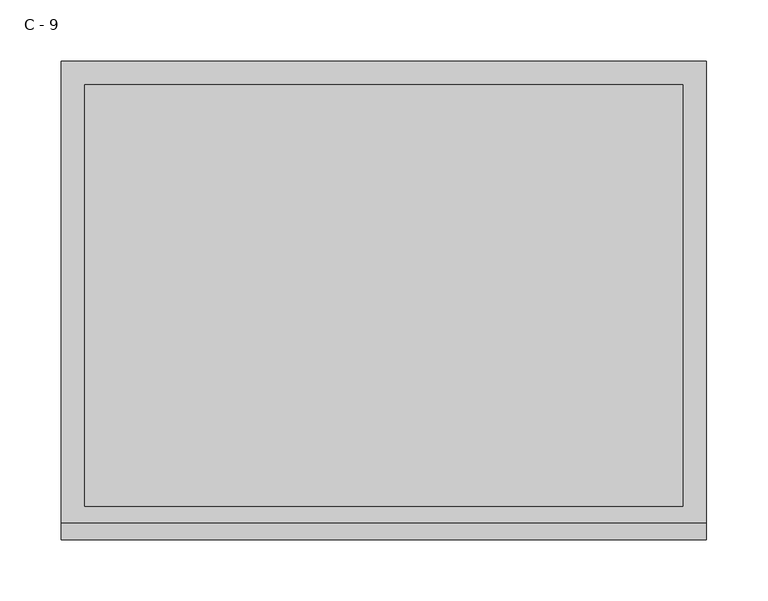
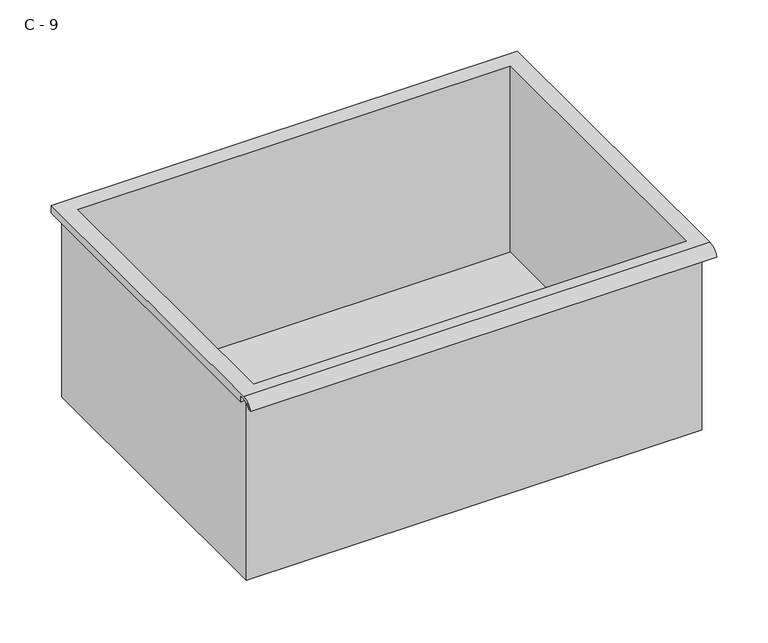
"""IFC4 building model written with IfcOpenShell, lengths in millimetres: furniture geometry, HermanMiller_CoStruc_CO207_Drawer : C - 9."""

from ifc_helpers import new_model, si_unit, frame, origin, place, context, project, spatial, polyline, circle_curve, source, transform, mapped, element, save
from ifc_brep_helpers import plane_surface, cylinder_surface, revolved_surface, advanced_brep


def c_9_c4f12e08(model_context):
    return source(origin(), model_context, "Body", "AdvancedBrep", [
        advanced_brep(
        [(-257.1076517, -176.2125, 619.125), (257.2423483, -176.2125, 619.125), (257.2423483, -176.2125, 835.025), (263.5923483, -176.2125, 835.025), (263.5923483, -176.2125, 841.3321341), (-263.4576517, -176.2125, 841.3321341), (-263.4576517, -176.2125, 835.025), (-257.1076517, -176.2125, 835.025), (257.2423483, 185.7375, 619.125), (-257.1076517, 185.7375, 619.125), (-257.1076517, 185.7375, 835.025), (257.2423483, 185.7375, 835.025), (263.5923483, -181.6070544, 844.55), (263.5923483, 195.2625, 844.55), (-263.4576517, 195.2625, 844.55), (-263.4576517, -181.6070544, 844.55), (244.5423483, -168.275, 844.55), (-244.4076517, -168.275, 844.55), (-244.4076517, 176.2125, 844.55), (244.5423483, 176.2125, 844.55), (263.5923483, -195.2625, 835.025), (263.5923483, -191.8280601, 835.025), (263.5923483, -180.4714815, 841.3321341), (263.5923483, 195.2625, 835.025), (-263.4576517, 195.2625, 835.025), (-263.4576517, -180.4714815, 841.3321341), (-263.4576517, -191.8280601, 835.025), (-263.4576517, -195.2625, 835.025), (-244.4076517, -168.275, 622.1511719), (244.5423483, -168.275, 622.1511719), (244.5423483, 176.2125, 622.1511719), (-244.4076517, 176.2125, 622.1511719)],
        [
            (0, 1),
            (1, 2),
            (2, 3),
            (3, 4),
            (4, 5),
            (5, 6),
            (6, 7),
            (7, 0),
            (8, 9),
            (9, 10),
            (10, 11),
            (11, 8),
            (0, 9),
            (8, 1),
            (11, 2),
            (12, 13),
            (13, 14),
            (14, 15),
            (15, 12),
            (16, 17),
            (17, 18),
            (18, 19),
            (19, 16),
            (7, 10),
            (12, 20, circle_curve(frame((263.5923483, -181.6070544, 829.9989859), z_axis=(1.0, 0.0, 0.0), x_axis=(0.0, 1.0, 0.0)), 14.5510141)),
            (20, 21),
            (21, 22, circle_curve(frame((263.5923483, -181.6070544, 829.9989859), z_axis=(-1.0, 0.0, 0.0), x_axis=(0.0, 1.0, 0.0)), 11.3898979)),
            (22, 4),
            (3, 23),
            (23, 13),
            (14, 24),
            (24, 6),
            (5, 25),
            (25, 26, circle_curve(frame((-263.4576517, -181.6070544, 829.9989859), z_axis=(1.0, 0.0, 0.0), x_axis=(0.0, 1.0, 0.0)), 11.3898979)),
            (26, 27),
            (27, 15, circle_curve(frame((-263.4576517, -181.6070544, 829.9989859), z_axis=(-1.0, 0.0, 0.0), x_axis=(0.0, 1.0, 0.0)), 14.5510141)),
            (27, 20),
            (26, 21),
            (25, 22),
            (24, 23),
            (28, 29),
            (29, 30),
            (30, 31),
            (31, 28),
            (28, 17),
            (16, 29),
            (19, 30),
            (18, 31),
        ],
        [
            plane_surface(frame((257.2423483, -176.2125, 619.125), z_axis=(0.0, -1.0, 0.0), x_axis=(1.0, 0.0, 0.0))),
            plane_surface(frame((257.2423483, 185.7375, 619.125), z_axis=(0.0, 1.0, 0.0), x_axis=(-1.0, 0.0, 0.0))),
            plane_surface(frame((-257.1076517, -176.2125, 619.125), z_axis=(0.0, 0.0, -1.0), x_axis=(0.0, 1.0, 0.0))),
            plane_surface(frame((257.2423483, -176.2125, 619.125), z_axis=(1.0, 0.0, 0.0), x_axis=(0.0, 1.0, 0.0))),
            plane_surface(frame((257.2423483, -176.2125, 844.55), z_axis=(0.0, 0.0, 1.0), x_axis=(0.0, 1.0, 0.0))),
            plane_surface(frame((-257.1076517, -176.2125, 844.55), z_axis=(-1.0, 0.0, 0.0), x_axis=(0.0, 1.0, 0.0))),
            plane_surface(frame((263.5923483, 195.2625, 844.55), z_axis=(1.0, 0.0, 0.0), x_axis=(0.0, -1.0, 0.0))),
            plane_surface(frame((-263.4576517, 195.2625, 844.55), z_axis=(-1.0, 0.0, 0.0), x_axis=(0.0, 1.0, 0.0))),
            cylinder_surface(frame((-263.4576517, -181.6070544, 829.9989859), z_axis=(1.0, 0.0, 0.0), x_axis=(0.0, 1.0, 0.0)), 14.5510141),
            plane_surface(frame((263.5923483, -195.2625, 835.025), z_axis=(0.0, -7.0153487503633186e-12, -1.0), x_axis=(-1.0, 0.0, 0.0))),
            revolved_surface(polyline([(-263.4576517, -170.21715650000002, 829.9989859), (263.59234829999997, -170.21715650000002, 829.9989859)]), (-263.4576517, -181.6070544, 829.9989859), (-1.0, 0.0, 0.0)),
            plane_surface(frame((263.5923483, -180.4714815, 841.3321341), z_axis=(0.0, -1.744824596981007e-11, -1.0), x_axis=(-1.0, 0.0, 0.0))),
            plane_surface(frame((263.5923483, -176.2125, 835.025), z_axis=(0.0, 0.0, -1.0), x_axis=(-1.0, 0.0, 0.0))),
            plane_surface(frame((263.5923483, 195.2625, 835.025), z_axis=(0.0, 1.0, 0.0), x_axis=(-1.0, 0.0, 0.0))),
            plane_surface(frame((244.5423483, -168.275, 622.1511719), z_axis=(0.0, 0.0, 1.0), x_axis=(-1.0, 0.0, 0.0))),
            plane_surface(frame((-244.4076517, -168.275, 844.55), z_axis=(0.0, 1.0, 0.0), x_axis=(0.0, 0.0, -1.0))),
            plane_surface(frame((244.5423483, -168.275, 844.55), z_axis=(-1.0, 0.0, 0.0), x_axis=(0.0, 0.0, -1.0))),
            plane_surface(frame((244.5423483, 176.2125, 844.55), z_axis=(0.0, -1.0, 0.0), x_axis=(0.0, 0.0, -1.0))),
            plane_surface(frame((-244.4076517, 176.2125, 844.55), z_axis=(1.0, 0.0, 0.0), x_axis=(0.0, 0.0, -1.0))),
        ],
        [
            (0, [[1, 2, 3, 4, 5, 6, 7, 8]]),
            (1, [[9, 10, 11, 12]]),
            (2, [[-1, 13, -9, 14]]),
            (3, [[-14, -12, 15, -2]]),
            (4, [[16, 17, 18, 19], [20, 21, 22, 23]]),
            (5, [[-13, -8, 24, -10]]),
            (6, [[-16, 25, 26, 27, 28, -4, 29, 30]]),
            (7, [[31, 32, -6, 33, 34, 35, 36, -18]]),
            (8, [[-25, -19, -36, 37]]),
            (9, [[-26, -37, -35, 38]]),
            (10, [[-27, -38, -34, 39]]),
            (11, [[-28, -39, -33, -5]]),
            (12, [[-29, -3, -15, -11, -24, -7, -32, 40]]),
            (13, [[-30, -40, -31, -17]]),
            (14, [[41, 42, 43, 44]]),
            (15, [[-41, 45, -20, 46]]),
            (16, [[-42, -46, -23, 47]]),
            (17, [[-43, -47, -22, 48]]),
            (18, [[-44, -48, -21, -45]]),
        ],
    ),
    ])


if __name__ == "__main__":
    model = new_model("IFC4")
    model_context = context("Model", 3, world=origin())
    ifc_project = project(units=[si_unit("LENGTHUNIT", "METRE", prefix="MILLI")], contexts=[model_context])
    site = spatial("IfcSite", under=ifc_project)
    building = spatial("IfcBuilding", under=site)
    placement = place(None, origin())
    c_9_shape = c_9_c4f12e08(model_context)
    element("IfcFurniture", 1, ObjectType="HermanMiller_CoStruc_CO207_Drawer : C - 9", at=placement, inside=building, context=model_context, shape_type="MappedRepresentation", body=[
        mapped(c_9_shape, transform((0.0, 0.0, 0.0), x_axis=(1.0, 0.0, 0.0), y_axis=(0.0, 1.0, 0.0), z_axis=(0.0, 0.0, 1.0))),
    ])
    save(model, "model.ifc")
